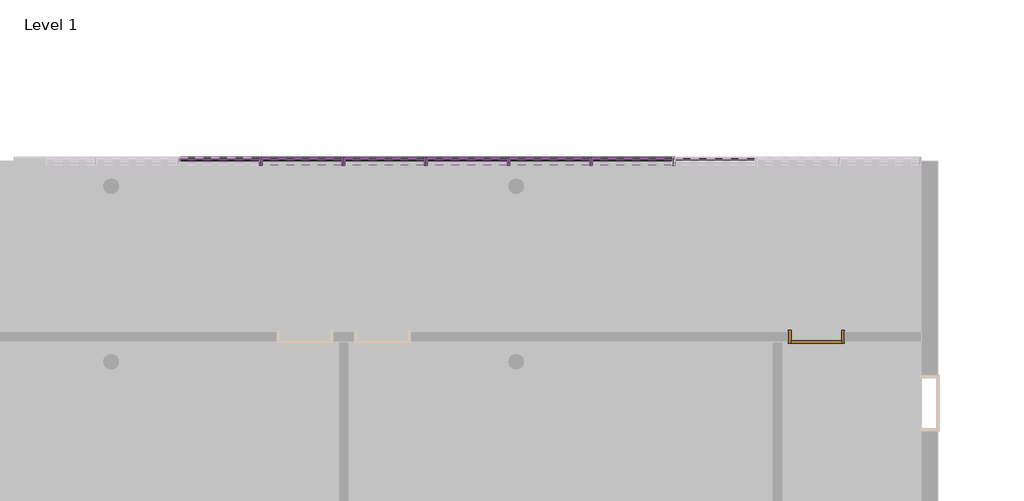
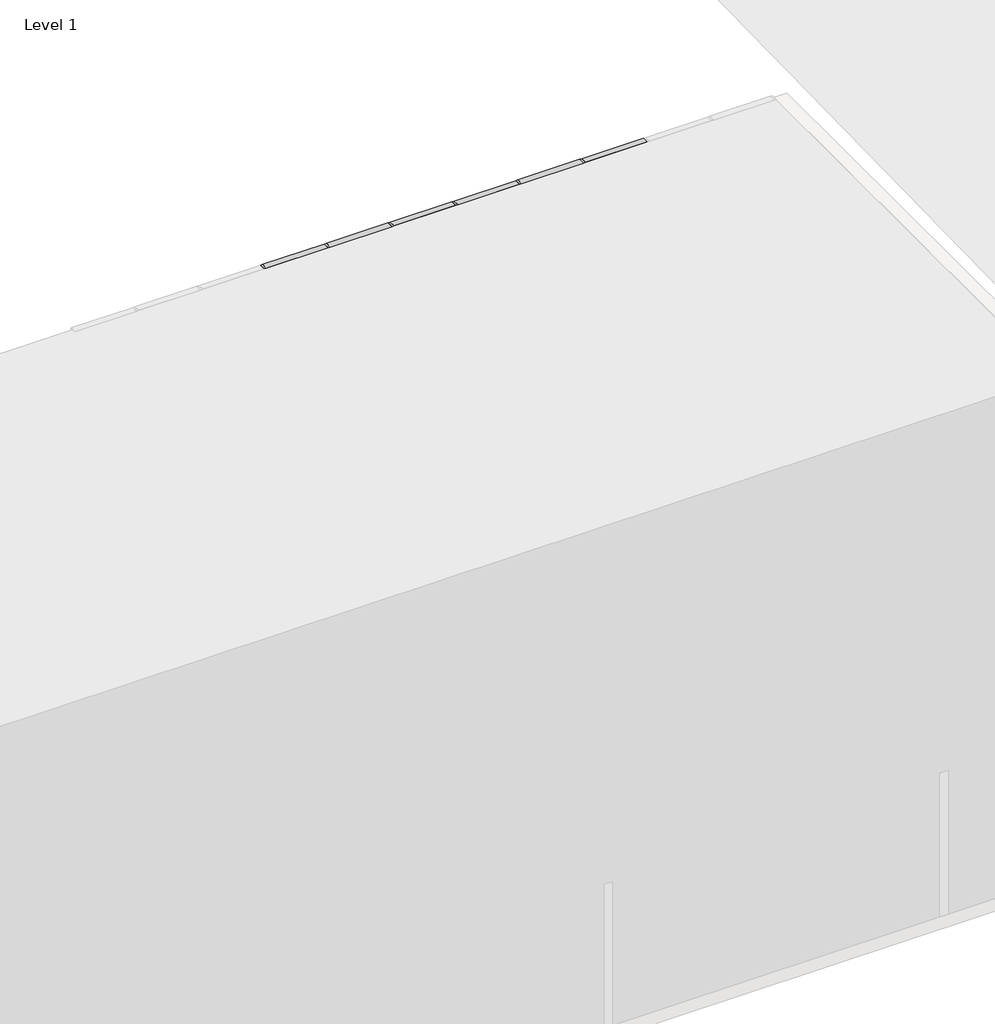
# One storey, part 8 of 27: 87 members, 46 plates, 1 door.
"""IFC4 building model written with IfcOpenShell, lengths in millimetres."""

from ifc_helpers import new_model, si_unit, origin, place, context, project, spatial, transform, mapped, element, save
from components import door_0915mm_x_2134mm_3fa07aa3, rectangular_mullion_50mm_x_150mm_5f185edf, rectangular_mullion_50mm_x_150mm_e13fe9f0, rectangular_mullion_50mm_x_150mm_bbc1c4ea, rectangular_mullion_50mm_x_150mm_36202a7c, rectangular_mullion_50mm_x_150mm_84717ec5, system_panel_glazed_65478968, system_panel_glazed_4c130a31, system_panel_solid_368a6b70, system_panel_solid_ece33ae8

model = new_model("IFC4")

# Units and contexts
model_context = context("Model", 3, world=origin())
ifc_project = project(units=[si_unit("LENGTHUNIT", "METRE", prefix="MILLI")], contexts=[model_context])

# Site, building, storey
site = spatial("IfcSite", under=ifc_project)
building = spatial("IfcBuilding", under=site)
storey = spatial("IfcBuildingStorey", under=building, Name="Level 1", Elevation=0.0)

# Door
placement = place(None, origin())
door_0915mm_x_2134mm_shape = door_0915mm_x_2134mm_3fa07aa3(model_context)
element("IfcDoor", 1, ObjectType="m-doors-hm-f1-a : 0915mm x 2134mm", at=placement, inside=storey, context=model_context, shape_type="MappedRepresentation", body=[
    mapped(door_0915mm_x_2134mm_shape, transform((54804.1173382, -15479.7006057, 0.0), x_axis=(1.0, 0.0, 0.0), y_axis=(0.0, 1.0, 0.0), z_axis=(0.0, 0.0, 1.0))),
])

# Members
rectangular_mullion_50mm_x_150mm_shape = rectangular_mullion_50mm_x_150mm_5f185edf(model_context)
element("IfcMember", 2, ObjectType="Rectangular Mullion : 50mm x 150mm", at=placement, inside=storey, context=model_context, shape_type="MappedRepresentation", body=[
    mapped(rectangular_mullion_50mm_x_150mm_shape, transform((52246.6976774, -12132.3615692, 12400.0), x_axis=(0.0, 0.0, 1.0), y_axis=(0.0, 1.0, 0.0), z_axis=(-1.0, 0.0, 0.0))),
])
element("IfcMember", 3, ObjectType="Rectangular Mullion : 50mm x 150mm", at=placement, inside=storey, context=model_context, shape_type="MappedRepresentation", body=[
    mapped(rectangular_mullion_50mm_x_150mm_shape, transform((50754.2244573, -12132.3615692, 12400.0), x_axis=(0.0, 0.0, 1.0), y_axis=(0.0, 1.0, 0.0), z_axis=(-1.0, 0.0, 0.0))),
])
element("IfcMember", 4, ObjectType="Rectangular Mullion : 50mm x 150mm", at=placement, inside=storey, context=model_context, shape_type="MappedRepresentation", body=[
    mapped(rectangular_mullion_50mm_x_150mm_shape, transform((49261.7512371, -12132.3615692, 12400.0), x_axis=(0.0, 0.0, 1.0), y_axis=(0.0, 1.0, 0.0), z_axis=(-1.0, 0.0, 0.0))),
])
element("IfcMember", 5, ObjectType="Rectangular Mullion : 50mm x 150mm", at=placement, inside=storey, context=model_context, shape_type="MappedRepresentation", body=[
    mapped(rectangular_mullion_50mm_x_150mm_shape, transform((47769.2780169, -12132.3615692, 12400.0), x_axis=(0.0, 0.0, 1.0), y_axis=(0.0, 1.0, 0.0), z_axis=(-1.0, 0.0, 0.0))),
])
element("IfcMember", 6, ObjectType="Rectangular Mullion : 50mm x 150mm", at=placement, inside=storey, context=model_context, shape_type="MappedRepresentation", body=[
    mapped(rectangular_mullion_50mm_x_150mm_shape, transform((46276.8047968, -12132.3615692, 12400.0), x_axis=(0.0, 0.0, 1.0), y_axis=(0.0, 1.0, 0.0), z_axis=(-1.0, 0.0, 0.0))),
])
element("IfcMember", 7, ObjectType="Rectangular Mullion : 50mm x 150mm", at=placement, inside=storey, context=model_context, shape_type="MappedRepresentation", body=[
    mapped(rectangular_mullion_50mm_x_150mm_shape, transform((44784.3315766, -12132.3615692, 12400.0), x_axis=(0.0, 0.0, 1.0), y_axis=(0.0, 1.0, 0.0), z_axis=(-1.0, 0.0, 0.0))),
])
element("IfcMember", 8, ObjectType="Rectangular Mullion : 50mm x 150mm", at=placement, inside=storey, context=model_context, shape_type="MappedRepresentation", body=[
    mapped(rectangular_mullion_50mm_x_150mm_shape, transform((52196.6976774, -12132.3615692, 0.0), x_axis=(0.0, 0.0, -1.0), y_axis=(0.0, 1.0, 0.0), z_axis=(1.0, 0.0, 0.0))),
])
element("IfcMember", 9, ObjectType="Rectangular Mullion : 50mm x 150mm", at=placement, inside=storey, context=model_context, shape_type="MappedRepresentation", body=[
    mapped(rectangular_mullion_50mm_x_150mm_shape, transform((50704.2244573, -12132.3615692, 0.0), x_axis=(0.0, 0.0, -1.0), y_axis=(0.0, 1.0, 0.0), z_axis=(1.0, 0.0, 0.0))),
])
element("IfcMember", 10, ObjectType="Rectangular Mullion : 50mm x 150mm", at=placement, inside=storey, context=model_context, shape_type="MappedRepresentation", body=[
    mapped(rectangular_mullion_50mm_x_150mm_shape, transform((49211.7512371, -12132.3615692, 0.0), x_axis=(0.0, 0.0, -1.0), y_axis=(0.0, 1.0, 0.0), z_axis=(1.0, 0.0, 0.0))),
])
element("IfcMember", 11, ObjectType="Rectangular Mullion : 50mm x 150mm", at=placement, inside=storey, context=model_context, shape_type="MappedRepresentation", body=[
    mapped(rectangular_mullion_50mm_x_150mm_shape, transform((47719.2780169, -12132.3615692, 0.0), x_axis=(0.0, 0.0, -1.0), y_axis=(0.0, 1.0, 0.0), z_axis=(1.0, 0.0, 0.0))),
])
element("IfcMember", 12, ObjectType="Rectangular Mullion : 50mm x 150mm", at=placement, inside=storey, context=model_context, shape_type="MappedRepresentation", body=[
    mapped(rectangular_mullion_50mm_x_150mm_shape, transform((46226.8047968, -12132.3615692, 0.0), x_axis=(0.0, 0.0, -1.0), y_axis=(0.0, 1.0, 0.0), z_axis=(1.0, 0.0, 0.0))),
])
element("IfcMember", 13, ObjectType="Rectangular Mullion : 50mm x 150mm", at=placement, inside=storey, context=model_context, shape_type="MappedRepresentation", body=[
    mapped(rectangular_mullion_50mm_x_150mm_shape, transform((44734.3315766, -12132.3615692, 0.0), x_axis=(0.0, 0.0, -1.0), y_axis=(0.0, 1.0, 0.0), z_axis=(1.0, 0.0, 0.0))),
])
rectangular_mullion_50mm_x_150mm_2_shape = rectangular_mullion_50mm_x_150mm_e13fe9f0(model_context)
element("IfcMember", 14, ObjectType="Rectangular Mullion : 50mm x 150mm", at=placement, inside=storey, context=model_context, shape_type="MappedRepresentation", body=[
    mapped(rectangular_mullion_50mm_x_150mm_2_shape, transform((52246.6976774, -12132.3615692, 3800.0), x_axis=(0.0, 0.0, 1.0), y_axis=(0.0, 1.0, 0.0), z_axis=(-1.0, 0.0, 0.0))),
])
element("IfcMember", 15, ObjectType="Rectangular Mullion : 50mm x 150mm", at=placement, inside=storey, context=model_context, shape_type="MappedRepresentation", body=[
    mapped(rectangular_mullion_50mm_x_150mm_2_shape, transform((50754.2244573, -12132.3615692, 3800.0), x_axis=(0.0, 0.0, 1.0), y_axis=(0.0, 1.0, 0.0), z_axis=(-1.0, 0.0, 0.0))),
])
element("IfcMember", 16, ObjectType="Rectangular Mullion : 50mm x 150mm", at=placement, inside=storey, context=model_context, shape_type="MappedRepresentation", body=[
    mapped(rectangular_mullion_50mm_x_150mm_2_shape, transform((49261.7512371, -12132.3615692, 3800.0), x_axis=(0.0, 0.0, 1.0), y_axis=(0.0, 1.0, 0.0), z_axis=(-1.0, 0.0, 0.0))),
])
element("IfcMember", 17, ObjectType="Rectangular Mullion : 50mm x 150mm", at=placement, inside=storey, context=model_context, shape_type="MappedRepresentation", body=[
    mapped(rectangular_mullion_50mm_x_150mm_2_shape, transform((47769.2780169, -12132.3615692, 3800.0), x_axis=(0.0, 0.0, 1.0), y_axis=(0.0, 1.0, 0.0), z_axis=(-1.0, 0.0, 0.0))),
])
element("IfcMember", 18, ObjectType="Rectangular Mullion : 50mm x 150mm", at=placement, inside=storey, context=model_context, shape_type="MappedRepresentation", body=[
    mapped(rectangular_mullion_50mm_x_150mm_2_shape, transform((46276.8047968, -12132.3615692, 3800.0), x_axis=(0.0, 0.0, 1.0), y_axis=(0.0, 1.0, 0.0), z_axis=(-1.0, 0.0, 0.0))),
])
element("IfcMember", 19, ObjectType="Rectangular Mullion : 50mm x 150mm", at=placement, inside=storey, context=model_context, shape_type="MappedRepresentation", body=[
    mapped(rectangular_mullion_50mm_x_150mm_2_shape, transform((44784.3315766, -12132.3615692, 3800.0), x_axis=(0.0, 0.0, 1.0), y_axis=(0.0, 1.0, 0.0), z_axis=(-1.0, 0.0, 0.0))),
])
element("IfcMember", 20, ObjectType="Rectangular Mullion : 50mm x 150mm", at=placement, inside=storey, context=model_context, shape_type="MappedRepresentation", body=[
    mapped(rectangular_mullion_50mm_x_150mm_2_shape, transform((52246.6976774, -12132.3615692, 7600.0), x_axis=(0.0, 0.0, 1.0), y_axis=(0.0, 1.0, 0.0), z_axis=(-1.0, 0.0, 0.0))),
])
element("IfcMember", 21, ObjectType="Rectangular Mullion : 50mm x 150mm", at=placement, inside=storey, context=model_context, shape_type="MappedRepresentation", body=[
    mapped(rectangular_mullion_50mm_x_150mm_2_shape, transform((50754.2244573, -12132.3615692, 7600.0), x_axis=(0.0, 0.0, 1.0), y_axis=(0.0, 1.0, 0.0), z_axis=(-1.0, 0.0, 0.0))),
])
element("IfcMember", 22, ObjectType="Rectangular Mullion : 50mm x 150mm", at=placement, inside=storey, context=model_context, shape_type="MappedRepresentation", body=[
    mapped(rectangular_mullion_50mm_x_150mm_2_shape, transform((49261.7512371, -12132.3615692, 7600.0), x_axis=(0.0, 0.0, 1.0), y_axis=(0.0, 1.0, 0.0), z_axis=(-1.0, 0.0, 0.0))),
])
element("IfcMember", 23, ObjectType="Rectangular Mullion : 50mm x 150mm", at=placement, inside=storey, context=model_context, shape_type="MappedRepresentation", body=[
    mapped(rectangular_mullion_50mm_x_150mm_2_shape, transform((47769.2780169, -12132.3615692, 7600.0), x_axis=(0.0, 0.0, 1.0), y_axis=(0.0, 1.0, 0.0), z_axis=(-1.0, 0.0, 0.0))),
])
element("IfcMember", 24, ObjectType="Rectangular Mullion : 50mm x 150mm", at=placement, inside=storey, context=model_context, shape_type="MappedRepresentation", body=[
    mapped(rectangular_mullion_50mm_x_150mm_2_shape, transform((46276.8047968, -12132.3615692, 7600.0), x_axis=(0.0, 0.0, 1.0), y_axis=(0.0, 1.0, 0.0), z_axis=(-1.0, 0.0, 0.0))),
])
element("IfcMember", 25, ObjectType="Rectangular Mullion : 50mm x 150mm", at=placement, inside=storey, context=model_context, shape_type="MappedRepresentation", body=[
    mapped(rectangular_mullion_50mm_x_150mm_2_shape, transform((44784.3315766, -12132.3615692, 7600.0), x_axis=(0.0, 0.0, 1.0), y_axis=(0.0, 1.0, 0.0), z_axis=(-1.0, 0.0, 0.0))),
])
element("IfcMember", 26, ObjectType="Rectangular Mullion : 50mm x 150mm", at=placement, inside=storey, context=model_context, shape_type="MappedRepresentation", body=[
    mapped(rectangular_mullion_50mm_x_150mm_2_shape, transform((52246.6976774, -12132.3615692, 11400.0), x_axis=(0.0, 0.0, 1.0), y_axis=(0.0, 1.0, 0.0), z_axis=(-1.0, 0.0, 0.0))),
])
element("IfcMember", 27, ObjectType="Rectangular Mullion : 50mm x 150mm", at=placement, inside=storey, context=model_context, shape_type="MappedRepresentation", body=[
    mapped(rectangular_mullion_50mm_x_150mm_2_shape, transform((50754.2244573, -12132.3615692, 11400.0), x_axis=(0.0, 0.0, 1.0), y_axis=(0.0, 1.0, 0.0), z_axis=(-1.0, 0.0, 0.0))),
])
element("IfcMember", 28, ObjectType="Rectangular Mullion : 50mm x 150mm", at=placement, inside=storey, context=model_context, shape_type="MappedRepresentation", body=[
    mapped(rectangular_mullion_50mm_x_150mm_2_shape, transform((49261.7512371, -12132.3615692, 11400.0), x_axis=(0.0, 0.0, 1.0), y_axis=(0.0, 1.0, 0.0), z_axis=(-1.0, 0.0, 0.0))),
])
element("IfcMember", 29, ObjectType="Rectangular Mullion : 50mm x 150mm", at=placement, inside=storey, context=model_context, shape_type="MappedRepresentation", body=[
    mapped(rectangular_mullion_50mm_x_150mm_2_shape, transform((47769.2780169, -12132.3615692, 11400.0), x_axis=(0.0, 0.0, 1.0), y_axis=(0.0, 1.0, 0.0), z_axis=(-1.0, 0.0, 0.0))),
])
element("IfcMember", 30, ObjectType="Rectangular Mullion : 50mm x 150mm", at=placement, inside=storey, context=model_context, shape_type="MappedRepresentation", body=[
    mapped(rectangular_mullion_50mm_x_150mm_2_shape, transform((46276.8047968, -12132.3615692, 11400.0), x_axis=(0.0, 0.0, 1.0), y_axis=(0.0, 1.0, 0.0), z_axis=(-1.0, 0.0, 0.0))),
])
element("IfcMember", 31, ObjectType="Rectangular Mullion : 50mm x 150mm", at=placement, inside=storey, context=model_context, shape_type="MappedRepresentation", body=[
    mapped(rectangular_mullion_50mm_x_150mm_2_shape, transform((44784.3315766, -12132.3615692, 11400.0), x_axis=(0.0, 0.0, 1.0), y_axis=(0.0, 1.0, 0.0), z_axis=(-1.0, 0.0, 0.0))),
])
element("IfcMember", 32, ObjectType="Rectangular Mullion : 50mm x 150mm", at=placement, inside=storey, context=model_context, shape_type="MappedRepresentation", body=[
    mapped(rectangular_mullion_50mm_x_150mm_2_shape, transform((52246.6976774, -12132.3615692, 2440.0), x_axis=(0.0, 0.0, 1.0), y_axis=(0.0, 1.0, 0.0), z_axis=(-1.0, 0.0, 0.0))),
])
element("IfcMember", 33, ObjectType="Rectangular Mullion : 50mm x 150mm", at=placement, inside=storey, context=model_context, shape_type="MappedRepresentation", body=[
    mapped(rectangular_mullion_50mm_x_150mm_2_shape, transform((50754.2244573, -12132.3615692, 2440.0), x_axis=(0.0, 0.0, 1.0), y_axis=(0.0, 1.0, 0.0), z_axis=(-1.0, 0.0, 0.0))),
])
element("IfcMember", 34, ObjectType="Rectangular Mullion : 50mm x 150mm", at=placement, inside=storey, context=model_context, shape_type="MappedRepresentation", body=[
    mapped(rectangular_mullion_50mm_x_150mm_2_shape, transform((49261.7512371, -12132.3615692, 2440.0), x_axis=(0.0, 0.0, 1.0), y_axis=(0.0, 1.0, 0.0), z_axis=(-1.0, 0.0, 0.0))),
])
element("IfcMember", 35, ObjectType="Rectangular Mullion : 50mm x 150mm", at=placement, inside=storey, context=model_context, shape_type="MappedRepresentation", body=[
    mapped(rectangular_mullion_50mm_x_150mm_2_shape, transform((47769.2780169, -12132.3615692, 2440.0), x_axis=(0.0, 0.0, 1.0), y_axis=(0.0, 1.0, 0.0), z_axis=(-1.0, 0.0, 0.0))),
])
element("IfcMember", 36, ObjectType="Rectangular Mullion : 50mm x 150mm", at=placement, inside=storey, context=model_context, shape_type="MappedRepresentation", body=[
    mapped(rectangular_mullion_50mm_x_150mm_2_shape, transform((46276.8047968, -12132.3615692, 2440.0), x_axis=(0.0, 0.0, 1.0), y_axis=(0.0, 1.0, 0.0), z_axis=(-1.0, 0.0, 0.0))),
])
element("IfcMember", 37, ObjectType="Rectangular Mullion : 50mm x 150mm", at=placement, inside=storey, context=model_context, shape_type="MappedRepresentation", body=[
    mapped(rectangular_mullion_50mm_x_150mm_2_shape, transform((44784.3315766, -12132.3615692, 2440.0), x_axis=(0.0, 0.0, 1.0), y_axis=(0.0, 1.0, 0.0), z_axis=(-1.0, 0.0, 0.0))),
])
element("IfcMember", 38, ObjectType="Rectangular Mullion : 50mm x 150mm", at=placement, inside=storey, context=model_context, shape_type="MappedRepresentation", body=[
    mapped(rectangular_mullion_50mm_x_150mm_2_shape, transform((52246.6976774, -12132.3615692, 6240.0), x_axis=(0.0, 0.0, 1.0), y_axis=(0.0, 1.0, 0.0), z_axis=(-1.0, 0.0, 0.0))),
])
element("IfcMember", 39, ObjectType="Rectangular Mullion : 50mm x 150mm", at=placement, inside=storey, context=model_context, shape_type="MappedRepresentation", body=[
    mapped(rectangular_mullion_50mm_x_150mm_2_shape, transform((50754.2244573, -12132.3615692, 6240.0), x_axis=(0.0, 0.0, 1.0), y_axis=(0.0, 1.0, 0.0), z_axis=(-1.0, 0.0, 0.0))),
])
element("IfcMember", 40, ObjectType="Rectangular Mullion : 50mm x 150mm", at=placement, inside=storey, context=model_context, shape_type="MappedRepresentation", body=[
    mapped(rectangular_mullion_50mm_x_150mm_2_shape, transform((49261.7512371, -12132.3615692, 6240.0), x_axis=(0.0, 0.0, 1.0), y_axis=(0.0, 1.0, 0.0), z_axis=(-1.0, 0.0, 0.0))),
])
element("IfcMember", 41, ObjectType="Rectangular Mullion : 50mm x 150mm", at=placement, inside=storey, context=model_context, shape_type="MappedRepresentation", body=[
    mapped(rectangular_mullion_50mm_x_150mm_2_shape, transform((47769.2780169, -12132.3615692, 6240.0), x_axis=(0.0, 0.0, 1.0), y_axis=(0.0, 1.0, 0.0), z_axis=(-1.0, 0.0, 0.0))),
])
element("IfcMember", 42, ObjectType="Rectangular Mullion : 50mm x 150mm", at=placement, inside=storey, context=model_context, shape_type="MappedRepresentation", body=[
    mapped(rectangular_mullion_50mm_x_150mm_2_shape, transform((46276.8047968, -12132.3615692, 6240.0), x_axis=(0.0, 0.0, 1.0), y_axis=(0.0, 1.0, 0.0), z_axis=(-1.0, 0.0, 0.0))),
])
element("IfcMember", 43, ObjectType="Rectangular Mullion : 50mm x 150mm", at=placement, inside=storey, context=model_context, shape_type="MappedRepresentation", body=[
    mapped(rectangular_mullion_50mm_x_150mm_2_shape, transform((44784.3315766, -12132.3615692, 6240.0), x_axis=(0.0, 0.0, 1.0), y_axis=(0.0, 1.0, 0.0), z_axis=(-1.0, 0.0, 0.0))),
])
element("IfcMember", 44, ObjectType="Rectangular Mullion : 50mm x 150mm", at=placement, inside=storey, context=model_context, shape_type="MappedRepresentation", body=[
    mapped(rectangular_mullion_50mm_x_150mm_2_shape, transform((50754.2244573, -12132.3615692, 10040.0), x_axis=(0.0, 0.0, 1.0), y_axis=(0.0, 1.0, 0.0), z_axis=(-1.0, 0.0, 0.0))),
])
element("IfcMember", 45, ObjectType="Rectangular Mullion : 50mm x 150mm", at=placement, inside=storey, context=model_context, shape_type="MappedRepresentation", body=[
    mapped(rectangular_mullion_50mm_x_150mm_2_shape, transform((49261.7512371, -12132.3615692, 10040.0), x_axis=(0.0, 0.0, 1.0), y_axis=(0.0, 1.0, 0.0), z_axis=(-1.0, 0.0, 0.0))),
])
element("IfcMember", 46, ObjectType="Rectangular Mullion : 50mm x 150mm", at=placement, inside=storey, context=model_context, shape_type="MappedRepresentation", body=[
    mapped(rectangular_mullion_50mm_x_150mm_2_shape, transform((47769.2780169, -12132.3615692, 10040.0), x_axis=(0.0, 0.0, 1.0), y_axis=(0.0, 1.0, 0.0), z_axis=(-1.0, 0.0, 0.0))),
])
element("IfcMember", 47, ObjectType="Rectangular Mullion : 50mm x 150mm", at=placement, inside=storey, context=model_context, shape_type="MappedRepresentation", body=[
    mapped(rectangular_mullion_50mm_x_150mm_2_shape, transform((46276.8047968, -12132.3615692, 10040.0), x_axis=(0.0, 0.0, 1.0), y_axis=(0.0, 1.0, 0.0), z_axis=(-1.0, 0.0, 0.0))),
])
element("IfcMember", 48, ObjectType="Rectangular Mullion : 50mm x 150mm", at=placement, inside=storey, context=model_context, shape_type="MappedRepresentation", body=[
    mapped(rectangular_mullion_50mm_x_150mm_2_shape, transform((44784.3315766, -12132.3615692, 10040.0), x_axis=(0.0, 0.0, 1.0), y_axis=(0.0, 1.0, 0.0), z_axis=(-1.0, 0.0, 0.0))),
])
rectangular_mullion_50mm_x_150mm_3_shape = rectangular_mullion_50mm_x_150mm_bbc1c4ea(model_context)
element("IfcMember", 49, ObjectType="Rectangular Mullion : 50mm x 150mm", at=placement, inside=storey, context=model_context, shape_type="MappedRepresentation", body=[
    mapped(rectangular_mullion_50mm_x_150mm_3_shape, transform((52221.6976774, -12132.3615692, 11400.0), x_axis=(-1.0, 0.0, 0.0), y_axis=(0.0, 1.0, 0.0), z_axis=(0.0, 0.0, -1.0))),
])
element("IfcMember", 50, ObjectType="Rectangular Mullion : 50mm x 150mm", at=placement, inside=storey, context=model_context, shape_type="MappedRepresentation", body=[
    mapped(rectangular_mullion_50mm_x_150mm_3_shape, transform((50729.2244573, -12132.3615692, 11400.0), x_axis=(-1.0, 0.0, 0.0), y_axis=(0.0, 1.0, 0.0), z_axis=(0.0, 0.0, -1.0))),
])
element("IfcMember", 51, ObjectType="Rectangular Mullion : 50mm x 150mm", at=placement, inside=storey, context=model_context, shape_type="MappedRepresentation", body=[
    mapped(rectangular_mullion_50mm_x_150mm_3_shape, transform((49236.7512371, -12132.3615692, 11400.0), x_axis=(-1.0, 0.0, 0.0), y_axis=(0.0, 1.0, 0.0), z_axis=(0.0, 0.0, -1.0))),
])
element("IfcMember", 52, ObjectType="Rectangular Mullion : 50mm x 150mm", at=placement, inside=storey, context=model_context, shape_type="MappedRepresentation", body=[
    mapped(rectangular_mullion_50mm_x_150mm_3_shape, transform((47744.2780169, -12132.3615692, 11400.0), x_axis=(-1.0, 0.0, 0.0), y_axis=(0.0, 1.0, 0.0), z_axis=(0.0, 0.0, -1.0))),
])
element("IfcMember", 53, ObjectType="Rectangular Mullion : 50mm x 150mm", at=placement, inside=storey, context=model_context, shape_type="MappedRepresentation", body=[
    mapped(rectangular_mullion_50mm_x_150mm_3_shape, transform((46251.8047968, -12132.3615692, 11400.0), x_axis=(-1.0, 0.0, 0.0), y_axis=(0.0, 1.0, 0.0), z_axis=(0.0, 0.0, -1.0))),
])
element("IfcMember", 54, ObjectType="Rectangular Mullion : 50mm x 150mm", at=placement, inside=storey, context=model_context, shape_type="MappedRepresentation", body=[
    mapped(rectangular_mullion_50mm_x_150mm_3_shape, transform((44759.3315766, -12132.3615692, 11400.0), x_axis=(-1.0, 0.0, 0.0), y_axis=(0.0, 1.0, 0.0), z_axis=(0.0, 0.0, -1.0))),
])
rectangular_mullion_50mm_x_150mm_4_shape = rectangular_mullion_50mm_x_150mm_36202a7c(model_context)
element("IfcMember", 55, ObjectType="Rectangular Mullion : 50mm x 150mm", at=placement, inside=storey, context=model_context, shape_type="MappedRepresentation", body=[
    mapped(rectangular_mullion_50mm_x_150mm_4_shape, transform((52221.6976774, -12132.3615692, 0.0), x_axis=(-1.0, 0.0, 0.0), y_axis=(0.0, 1.0, 0.0), z_axis=(0.0, 0.0, -1.0))),
])
element("IfcMember", 56, ObjectType="Rectangular Mullion : 50mm x 150mm", at=placement, inside=storey, context=model_context, shape_type="MappedRepresentation", body=[
    mapped(rectangular_mullion_50mm_x_150mm_4_shape, transform((50729.2244573, -12132.3615692, 0.0), x_axis=(-1.0, 0.0, 0.0), y_axis=(0.0, 1.0, 0.0), z_axis=(0.0, 0.0, -1.0))),
])
element("IfcMember", 57, ObjectType="Rectangular Mullion : 50mm x 150mm", at=placement, inside=storey, context=model_context, shape_type="MappedRepresentation", body=[
    mapped(rectangular_mullion_50mm_x_150mm_4_shape, transform((49236.7512371, -12132.3615692, 0.0), x_axis=(-1.0, 0.0, 0.0), y_axis=(0.0, 1.0, 0.0), z_axis=(0.0, 0.0, -1.0))),
])
element("IfcMember", 58, ObjectType="Rectangular Mullion : 50mm x 150mm", at=placement, inside=storey, context=model_context, shape_type="MappedRepresentation", body=[
    mapped(rectangular_mullion_50mm_x_150mm_4_shape, transform((47744.2780169, -12132.3615692, 0.0), x_axis=(-1.0, 0.0, 0.0), y_axis=(0.0, 1.0, 0.0), z_axis=(0.0, 0.0, -1.0))),
])
element("IfcMember", 59, ObjectType="Rectangular Mullion : 50mm x 150mm", at=placement, inside=storey, context=model_context, shape_type="MappedRepresentation", body=[
    mapped(rectangular_mullion_50mm_x_150mm_4_shape, transform((46251.8047968, -12132.3615692, 0.0), x_axis=(-1.0, 0.0, 0.0), y_axis=(0.0, 1.0, 0.0), z_axis=(0.0, 0.0, -1.0))),
])
element("IfcMember", 60, ObjectType="Rectangular Mullion : 50mm x 150mm", at=placement, inside=storey, context=model_context, shape_type="MappedRepresentation", body=[
    mapped(rectangular_mullion_50mm_x_150mm_4_shape, transform((44759.3315766, -12132.3615692, 0.0), x_axis=(-1.0, 0.0, 0.0), y_axis=(0.0, 1.0, 0.0), z_axis=(0.0, 0.0, -1.0))),
])
rectangular_mullion_50mm_x_150mm_5_shape = rectangular_mullion_50mm_x_150mm_84717ec5(model_context)
element("IfcMember", 61, ObjectType="Rectangular Mullion : 50mm x 150mm", at=placement, inside=storey, context=model_context, shape_type="MappedRepresentation", body=[
    mapped(rectangular_mullion_50mm_x_150mm_5_shape, transform((52221.6976774, -12132.3615692, 2440.0), x_axis=(-1.0, 0.0, 0.0), y_axis=(0.0, 1.0, 0.0), z_axis=(0.0, 0.0, -1.0))),
])
element("IfcMember", 62, ObjectType="Rectangular Mullion : 50mm x 150mm", at=placement, inside=storey, context=model_context, shape_type="MappedRepresentation", body=[
    mapped(rectangular_mullion_50mm_x_150mm_5_shape, transform((50729.2244573, -12132.3615692, 2440.0), x_axis=(-1.0, 0.0, 0.0), y_axis=(0.0, 1.0, 0.0), z_axis=(0.0, 0.0, -1.0))),
])
element("IfcMember", 63, ObjectType="Rectangular Mullion : 50mm x 150mm", at=placement, inside=storey, context=model_context, shape_type="MappedRepresentation", body=[
    mapped(rectangular_mullion_50mm_x_150mm_5_shape, transform((49236.7512371, -12132.3615692, 2440.0), x_axis=(-1.0, 0.0, 0.0), y_axis=(0.0, 1.0, 0.0), z_axis=(0.0, 0.0, -1.0))),
])
element("IfcMember", 64, ObjectType="Rectangular Mullion : 50mm x 150mm", at=placement, inside=storey, context=model_context, shape_type="MappedRepresentation", body=[
    mapped(rectangular_mullion_50mm_x_150mm_5_shape, transform((47744.2780169, -12132.3615692, 2440.0), x_axis=(-1.0, 0.0, 0.0), y_axis=(0.0, 1.0, 0.0), z_axis=(0.0, 0.0, -1.0))),
])
element("IfcMember", 65, ObjectType="Rectangular Mullion : 50mm x 150mm", at=placement, inside=storey, context=model_context, shape_type="MappedRepresentation", body=[
    mapped(rectangular_mullion_50mm_x_150mm_5_shape, transform((46251.8047968, -12132.3615692, 2440.0), x_axis=(-1.0, 0.0, 0.0), y_axis=(0.0, 1.0, 0.0), z_axis=(0.0, 0.0, -1.0))),
])
element("IfcMember", 66, ObjectType="Rectangular Mullion : 50mm x 150mm", at=placement, inside=storey, context=model_context, shape_type="MappedRepresentation", body=[
    mapped(rectangular_mullion_50mm_x_150mm_5_shape, transform((44759.3315766, -12132.3615692, 2440.0), x_axis=(-1.0, 0.0, 0.0), y_axis=(0.0, 1.0, 0.0), z_axis=(0.0, 0.0, -1.0))),
])
element("IfcMember", 67, ObjectType="Rectangular Mullion : 50mm x 150mm", at=placement, inside=storey, context=model_context, shape_type="MappedRepresentation", body=[
    mapped(rectangular_mullion_50mm_x_150mm_5_shape, transform((50729.2244573, -12132.3615692, 6240.0), x_axis=(-1.0, 0.0, 0.0), y_axis=(0.0, 1.0, 0.0), z_axis=(0.0, 0.0, -1.0))),
])
element("IfcMember", 68, ObjectType="Rectangular Mullion : 50mm x 150mm", at=placement, inside=storey, context=model_context, shape_type="MappedRepresentation", body=[
    mapped(rectangular_mullion_50mm_x_150mm_5_shape, transform((49236.7512371, -12132.3615692, 6240.0), x_axis=(-1.0, 0.0, 0.0), y_axis=(0.0, 1.0, 0.0), z_axis=(0.0, 0.0, -1.0))),
])
element("IfcMember", 69, ObjectType="Rectangular Mullion : 50mm x 150mm", at=placement, inside=storey, context=model_context, shape_type="MappedRepresentation", body=[
    mapped(rectangular_mullion_50mm_x_150mm_5_shape, transform((47744.2780169, -12132.3615692, 6240.0), x_axis=(-1.0, 0.0, 0.0), y_axis=(0.0, 1.0, 0.0), z_axis=(0.0, 0.0, -1.0))),
])
element("IfcMember", 70, ObjectType="Rectangular Mullion : 50mm x 150mm", at=placement, inside=storey, context=model_context, shape_type="MappedRepresentation", body=[
    mapped(rectangular_mullion_50mm_x_150mm_5_shape, transform((46251.8047968, -12132.3615692, 6240.0), x_axis=(-1.0, 0.0, 0.0), y_axis=(0.0, 1.0, 0.0), z_axis=(0.0, 0.0, -1.0))),
])
element("IfcMember", 71, ObjectType="Rectangular Mullion : 50mm x 150mm", at=placement, inside=storey, context=model_context, shape_type="MappedRepresentation", body=[
    mapped(rectangular_mullion_50mm_x_150mm_5_shape, transform((44759.3315766, -12132.3615692, 6240.0), x_axis=(-1.0, 0.0, 0.0), y_axis=(0.0, 1.0, 0.0), z_axis=(0.0, 0.0, -1.0))),
])
element("IfcMember", 72, ObjectType="Rectangular Mullion : 50mm x 150mm", at=placement, inside=storey, context=model_context, shape_type="MappedRepresentation", body=[
    mapped(rectangular_mullion_50mm_x_150mm_5_shape, transform((50729.2244573, -12132.3615692, 10040.0), x_axis=(-1.0, 0.0, 0.0), y_axis=(0.0, 1.0, 0.0), z_axis=(0.0, 0.0, -1.0))),
])
element("IfcMember", 73, ObjectType="Rectangular Mullion : 50mm x 150mm", at=placement, inside=storey, context=model_context, shape_type="MappedRepresentation", body=[
    mapped(rectangular_mullion_50mm_x_150mm_5_shape, transform((49236.7512371, -12132.3615692, 10040.0), x_axis=(-1.0, 0.0, 0.0), y_axis=(0.0, 1.0, 0.0), z_axis=(0.0, 0.0, -1.0))),
])
element("IfcMember", 74, ObjectType="Rectangular Mullion : 50mm x 150mm", at=placement, inside=storey, context=model_context, shape_type="MappedRepresentation", body=[
    mapped(rectangular_mullion_50mm_x_150mm_5_shape, transform((47744.2780169, -12132.3615692, 10040.0), x_axis=(-1.0, 0.0, 0.0), y_axis=(0.0, 1.0, 0.0), z_axis=(0.0, 0.0, -1.0))),
])
element("IfcMember", 75, ObjectType="Rectangular Mullion : 50mm x 150mm", at=placement, inside=storey, context=model_context, shape_type="MappedRepresentation", body=[
    mapped(rectangular_mullion_50mm_x_150mm_5_shape, transform((46251.8047968, -12132.3615692, 10040.0), x_axis=(-1.0, 0.0, 0.0), y_axis=(0.0, 1.0, 0.0), z_axis=(0.0, 0.0, -1.0))),
])
element("IfcMember", 76, ObjectType="Rectangular Mullion : 50mm x 150mm", at=placement, inside=storey, context=model_context, shape_type="MappedRepresentation", body=[
    mapped(rectangular_mullion_50mm_x_150mm_5_shape, transform((44759.3315766, -12132.3615692, 10040.0), x_axis=(-1.0, 0.0, 0.0), y_axis=(0.0, 1.0, 0.0), z_axis=(0.0, 0.0, -1.0))),
])
element("IfcMember", 77, ObjectType="Rectangular Mullion : 50mm x 150mm", at=placement, inside=storey, context=model_context, shape_type="MappedRepresentation", body=[
    mapped(rectangular_mullion_50mm_x_150mm_4_shape, transform((52221.6976774, -12132.3615692, 3800.0), x_axis=(-1.0, 0.0, 0.0), y_axis=(0.0, 1.0, 0.0), z_axis=(0.0, 0.0, -1.0))),
])
element("IfcMember", 78, ObjectType="Rectangular Mullion : 50mm x 150mm", at=placement, inside=storey, context=model_context, shape_type="MappedRepresentation", body=[
    mapped(rectangular_mullion_50mm_x_150mm_4_shape, transform((50729.2244573, -12132.3615692, 3800.0), x_axis=(-1.0, 0.0, 0.0), y_axis=(0.0, 1.0, 0.0), z_axis=(0.0, 0.0, -1.0))),
])
element("IfcMember", 79, ObjectType="Rectangular Mullion : 50mm x 150mm", at=placement, inside=storey, context=model_context, shape_type="MappedRepresentation", body=[
    mapped(rectangular_mullion_50mm_x_150mm_4_shape, transform((49236.7512371, -12132.3615692, 3800.0), x_axis=(-1.0, 0.0, 0.0), y_axis=(0.0, 1.0, 0.0), z_axis=(0.0, 0.0, -1.0))),
])
element("IfcMember", 80, ObjectType="Rectangular Mullion : 50mm x 150mm", at=placement, inside=storey, context=model_context, shape_type="MappedRepresentation", body=[
    mapped(rectangular_mullion_50mm_x_150mm_4_shape, transform((47744.2780169, -12132.3615692, 3800.0), x_axis=(-1.0, 0.0, 0.0), y_axis=(0.0, 1.0, 0.0), z_axis=(0.0, 0.0, -1.0))),
])
element("IfcMember", 81, ObjectType="Rectangular Mullion : 50mm x 150mm", at=placement, inside=storey, context=model_context, shape_type="MappedRepresentation", body=[
    mapped(rectangular_mullion_50mm_x_150mm_4_shape, transform((46251.8047968, -12132.3615692, 3800.0), x_axis=(-1.0, 0.0, 0.0), y_axis=(0.0, 1.0, 0.0), z_axis=(0.0, 0.0, -1.0))),
])
element("IfcMember", 82, ObjectType="Rectangular Mullion : 50mm x 150mm", at=placement, inside=storey, context=model_context, shape_type="MappedRepresentation", body=[
    mapped(rectangular_mullion_50mm_x_150mm_4_shape, transform((44759.3315766, -12132.3615692, 3800.0), x_axis=(-1.0, 0.0, 0.0), y_axis=(0.0, 1.0, 0.0), z_axis=(0.0, 0.0, -1.0))),
])
element("IfcMember", 83, ObjectType="Rectangular Mullion : 50mm x 150mm", at=placement, inside=storey, context=model_context, shape_type="MappedRepresentation", body=[
    mapped(rectangular_mullion_50mm_x_150mm_4_shape, transform((52221.6976774, -12132.3615692, 7600.0), x_axis=(-1.0, 0.0, 0.0), y_axis=(0.0, 1.0, 0.0), z_axis=(0.0, 0.0, -1.0))),
])
element("IfcMember", 84, ObjectType="Rectangular Mullion : 50mm x 150mm", at=placement, inside=storey, context=model_context, shape_type="MappedRepresentation", body=[
    mapped(rectangular_mullion_50mm_x_150mm_4_shape, transform((50729.2244573, -12132.3615692, 7600.0), x_axis=(-1.0, 0.0, 0.0), y_axis=(0.0, 1.0, 0.0), z_axis=(0.0, 0.0, -1.0))),
])
element("IfcMember", 85, ObjectType="Rectangular Mullion : 50mm x 150mm", at=placement, inside=storey, context=model_context, shape_type="MappedRepresentation", body=[
    mapped(rectangular_mullion_50mm_x_150mm_4_shape, transform((49236.7512371, -12132.3615692, 7600.0), x_axis=(-1.0, 0.0, 0.0), y_axis=(0.0, 1.0, 0.0), z_axis=(0.0, 0.0, -1.0))),
])
element("IfcMember", 86, ObjectType="Rectangular Mullion : 50mm x 150mm", at=placement, inside=storey, context=model_context, shape_type="MappedRepresentation", body=[
    mapped(rectangular_mullion_50mm_x_150mm_4_shape, transform((47744.2780169, -12132.3615692, 7600.0), x_axis=(-1.0, 0.0, 0.0), y_axis=(0.0, 1.0, 0.0), z_axis=(0.0, 0.0, -1.0))),
])
element("IfcMember", 87, ObjectType="Rectangular Mullion : 50mm x 150mm", at=placement, inside=storey, context=model_context, shape_type="MappedRepresentation", body=[
    mapped(rectangular_mullion_50mm_x_150mm_4_shape, transform((46251.8047968, -12132.3615692, 7600.0), x_axis=(-1.0, 0.0, 0.0), y_axis=(0.0, 1.0, 0.0), z_axis=(0.0, 0.0, -1.0))),
])
element("IfcMember", 88, ObjectType="Rectangular Mullion : 50mm x 150mm", at=placement, inside=storey, context=model_context, shape_type="MappedRepresentation", body=[
    mapped(rectangular_mullion_50mm_x_150mm_4_shape, transform((44759.3315766, -12132.3615692, 7600.0), x_axis=(-1.0, 0.0, 0.0), y_axis=(0.0, 1.0, 0.0), z_axis=(0.0, 0.0, -1.0))),
])

# Plates
system_panel_glazed_shape = system_panel_glazed_65478968(model_context)
element("IfcPlate", 89, ObjectType="System Panel : Glazed", at=placement, inside=storey, context=model_context, shape_type="MappedRepresentation", body=[
    mapped(system_panel_glazed_shape, transform((52967.9342875, -12132.3615692, 50.0), x_axis=(-1.0, 0.0, 0.0), y_axis=(0.0, -1.0, 0.0), z_axis=(0.0, 0.0, 1.0))),
])
element("IfcPlate", 90, ObjectType="System Panel : Glazed", at=placement, inside=storey, context=model_context, shape_type="MappedRepresentation", body=[
    mapped(system_panel_glazed_shape, transform((51475.4610673, -12132.3615692, 50.0), x_axis=(-1.0, 0.0, 0.0), y_axis=(0.0, -1.0, 0.0), z_axis=(0.0, 0.0, 1.0))),
])
element("IfcPlate", 91, ObjectType="System Panel : Glazed", at=placement, inside=storey, context=model_context, shape_type="MappedRepresentation", body=[
    mapped(system_panel_glazed_shape, transform((49982.9878472, -12132.3615692, 50.0), x_axis=(-1.0, 0.0, 0.0), y_axis=(0.0, -1.0, 0.0), z_axis=(0.0, 0.0, 1.0))),
])
element("IfcPlate", 92, ObjectType="System Panel : Glazed", at=placement, inside=storey, context=model_context, shape_type="MappedRepresentation", body=[
    mapped(system_panel_glazed_shape, transform((48490.514627, -12132.3615692, 50.0), x_axis=(-1.0, 0.0, 0.0), y_axis=(0.0, -1.0, 0.0), z_axis=(0.0, 0.0, 1.0))),
])
element("IfcPlate", 93, ObjectType="System Panel : Glazed", at=placement, inside=storey, context=model_context, shape_type="MappedRepresentation", body=[
    mapped(system_panel_glazed_shape, transform((46998.0414069, -12132.3615692, 50.0), x_axis=(-1.0, 0.0, 0.0), y_axis=(0.0, -1.0, 0.0), z_axis=(0.0, 0.0, 1.0))),
])
element("IfcPlate", 94, ObjectType="System Panel : Glazed", at=placement, inside=storey, context=model_context, shape_type="MappedRepresentation", body=[
    mapped(system_panel_glazed_shape, transform((45505.5681867, -12132.3615692, 50.0), x_axis=(-1.0, 0.0, 0.0), y_axis=(0.0, -1.0, 0.0), z_axis=(0.0, 0.0, 1.0))),
])
system_panel_glazed_2_shape = system_panel_glazed_4c130a31(model_context)
element("IfcPlate", 95, ObjectType="System Panel : Glazed", at=placement, inside=storey, context=model_context, shape_type="MappedRepresentation", body=[
    mapped(system_panel_glazed_2_shape, transform((52967.9342875, -12132.3615692, 3825.0), x_axis=(-1.0, 0.0, 0.0), y_axis=(0.0, -1.0, 0.0), z_axis=(0.0, 0.0, 1.0))),
])
element("IfcPlate", 96, ObjectType="System Panel : Glazed", at=placement, inside=storey, context=model_context, shape_type="MappedRepresentation", body=[
    mapped(system_panel_glazed_2_shape, transform((51475.4610673, -12132.3615692, 3825.0), x_axis=(-1.0, 0.0, 0.0), y_axis=(0.0, -1.0, 0.0), z_axis=(0.0, 0.0, 1.0))),
])
element("IfcPlate", 97, ObjectType="System Panel : Glazed", at=placement, inside=storey, context=model_context, shape_type="MappedRepresentation", body=[
    mapped(system_panel_glazed_2_shape, transform((49982.9878472, -12132.3615692, 3825.0), x_axis=(-1.0, 0.0, 0.0), y_axis=(0.0, -1.0, 0.0), z_axis=(0.0, 0.0, 1.0))),
])
element("IfcPlate", 98, ObjectType="System Panel : Glazed", at=placement, inside=storey, context=model_context, shape_type="MappedRepresentation", body=[
    mapped(system_panel_glazed_2_shape, transform((48490.514627, -12132.3615692, 3825.0), x_axis=(-1.0, 0.0, 0.0), y_axis=(0.0, -1.0, 0.0), z_axis=(0.0, 0.0, 1.0))),
])
element("IfcPlate", 99, ObjectType="System Panel : Glazed", at=placement, inside=storey, context=model_context, shape_type="MappedRepresentation", body=[
    mapped(system_panel_glazed_2_shape, transform((46998.0414069, -12132.3615692, 3825.0), x_axis=(-1.0, 0.0, 0.0), y_axis=(0.0, -1.0, 0.0), z_axis=(0.0, 0.0, 1.0))),
])
element("IfcPlate", 100, ObjectType="System Panel : Glazed", at=placement, inside=storey, context=model_context, shape_type="MappedRepresentation", body=[
    mapped(system_panel_glazed_2_shape, transform((45505.5681867, -12132.3615692, 3825.0), x_axis=(-1.0, 0.0, 0.0), y_axis=(0.0, -1.0, 0.0), z_axis=(0.0, 0.0, 1.0))),
])
element("IfcPlate", 101, ObjectType="System Panel : Glazed", at=placement, inside=storey, context=model_context, shape_type="MappedRepresentation", body=[
    mapped(system_panel_glazed_2_shape, transform((52967.9342875, -12132.3615692, 7625.0), x_axis=(-1.0, 0.0, 0.0), y_axis=(0.0, -1.0, 0.0), z_axis=(0.0, 0.0, 1.0))),
])
element("IfcPlate", 102, ObjectType="System Panel : Glazed", at=placement, inside=storey, context=model_context, shape_type="MappedRepresentation", body=[
    mapped(system_panel_glazed_2_shape, transform((51475.4610673, -12132.3615692, 7625.0), x_axis=(-1.0, 0.0, 0.0), y_axis=(0.0, -1.0, 0.0), z_axis=(0.0, 0.0, 1.0))),
])
element("IfcPlate", 103, ObjectType="System Panel : Glazed", at=placement, inside=storey, context=model_context, shape_type="MappedRepresentation", body=[
    mapped(system_panel_glazed_2_shape, transform((49982.9878472, -12132.3615692, 7625.0), x_axis=(-1.0, 0.0, 0.0), y_axis=(0.0, -1.0, 0.0), z_axis=(0.0, 0.0, 1.0))),
])
element("IfcPlate", 104, ObjectType="System Panel : Glazed", at=placement, inside=storey, context=model_context, shape_type="MappedRepresentation", body=[
    mapped(system_panel_glazed_2_shape, transform((48490.514627, -12132.3615692, 7625.0), x_axis=(-1.0, 0.0, 0.0), y_axis=(0.0, -1.0, 0.0), z_axis=(0.0, 0.0, 1.0))),
])
element("IfcPlate", 105, ObjectType="System Panel : Glazed", at=placement, inside=storey, context=model_context, shape_type="MappedRepresentation", body=[
    mapped(system_panel_glazed_2_shape, transform((46998.0414069, -12132.3615692, 7625.0), x_axis=(-1.0, 0.0, 0.0), y_axis=(0.0, -1.0, 0.0), z_axis=(0.0, 0.0, 1.0))),
])
element("IfcPlate", 106, ObjectType="System Panel : Glazed", at=placement, inside=storey, context=model_context, shape_type="MappedRepresentation", body=[
    mapped(system_panel_glazed_2_shape, transform((45505.5681867, -12132.3615692, 7625.0), x_axis=(-1.0, 0.0, 0.0), y_axis=(0.0, -1.0, 0.0), z_axis=(0.0, 0.0, 1.0))),
])
element("IfcPlate", 107, ObjectType="System Panel : Glazed", at=placement, inside=storey, context=model_context, shape_type="MappedRepresentation", body=[
    mapped(system_panel_glazed_2_shape, transform((44013.0949665, -12132.3615692, 7625.0), x_axis=(-1.0, 0.0, 0.0), y_axis=(0.0, -1.0, 0.0), z_axis=(0.0, 0.0, 1.0))),
])
system_panel_solid_shape = system_panel_solid_368a6b70(model_context)
element("IfcPlate", 108, ObjectType="System Panel : Solid", at=placement, inside=storey, context=model_context, shape_type="MappedRepresentation", body=[
    mapped(system_panel_solid_shape, transform((52967.9342875, -12132.3615692, 11425.0), x_axis=(-1.0, 0.0, 0.0), y_axis=(0.0, -1.0, 0.0), z_axis=(0.0, 0.0, 1.0))),
])
element("IfcPlate", 109, ObjectType="System Panel : Solid", at=placement, inside=storey, context=model_context, shape_type="MappedRepresentation", body=[
    mapped(system_panel_solid_shape, transform((51475.4610673, -12132.3615692, 11425.0), x_axis=(-1.0, 0.0, 0.0), y_axis=(0.0, -1.0, 0.0), z_axis=(0.0, 0.0, 1.0))),
])
element("IfcPlate", 110, ObjectType="System Panel : Solid", at=placement, inside=storey, context=model_context, shape_type="MappedRepresentation", body=[
    mapped(system_panel_solid_shape, transform((49982.9878472, -12132.3615692, 11425.0), x_axis=(-1.0, 0.0, 0.0), y_axis=(0.0, -1.0, 0.0), z_axis=(0.0, 0.0, 1.0))),
])
element("IfcPlate", 111, ObjectType="System Panel : Solid", at=placement, inside=storey, context=model_context, shape_type="MappedRepresentation", body=[
    mapped(system_panel_solid_shape, transform((48490.514627, -12132.3615692, 11425.0), x_axis=(-1.0, 0.0, 0.0), y_axis=(0.0, -1.0, 0.0), z_axis=(0.0, 0.0, 1.0))),
])
element("IfcPlate", 112, ObjectType="System Panel : Solid", at=placement, inside=storey, context=model_context, shape_type="MappedRepresentation", body=[
    mapped(system_panel_solid_shape, transform((46998.0414069, -12132.3615692, 11425.0), x_axis=(-1.0, 0.0, 0.0), y_axis=(0.0, -1.0, 0.0), z_axis=(0.0, 0.0, 1.0))),
])
element("IfcPlate", 113, ObjectType="System Panel : Solid", at=placement, inside=storey, context=model_context, shape_type="MappedRepresentation", body=[
    mapped(system_panel_solid_shape, transform((45505.5681867, -12132.3615692, 11425.0), x_axis=(-1.0, 0.0, 0.0), y_axis=(0.0, -1.0, 0.0), z_axis=(0.0, 0.0, 1.0))),
])
element("IfcPlate", 114, ObjectType="System Panel : Solid", at=placement, inside=storey, context=model_context, shape_type="MappedRepresentation", body=[
    mapped(system_panel_solid_shape, transform((44013.0949665, -12132.3615692, 11425.0), x_axis=(-1.0, 0.0, 0.0), y_axis=(0.0, -1.0, 0.0), z_axis=(0.0, 0.0, 1.0))),
])
system_panel_solid_2_shape = system_panel_solid_ece33ae8(model_context)
element("IfcPlate", 115, ObjectType="System Panel : Solid", at=placement, inside=storey, context=model_context, shape_type="MappedRepresentation", body=[
    mapped(system_panel_solid_2_shape, transform((52967.9342875, -12132.3615692, 2465.0), x_axis=(-1.0, 0.0, 0.0), y_axis=(0.0, -1.0, 0.0), z_axis=(0.0, 0.0, 1.0))),
])
element("IfcPlate", 116, ObjectType="System Panel : Solid", at=placement, inside=storey, context=model_context, shape_type="MappedRepresentation", body=[
    mapped(system_panel_solid_2_shape, transform((51475.4610673, -12132.3615692, 2465.0), x_axis=(-1.0, 0.0, 0.0), y_axis=(0.0, -1.0, 0.0), z_axis=(0.0, 0.0, 1.0))),
])
element("IfcPlate", 117, ObjectType="System Panel : Solid", at=placement, inside=storey, context=model_context, shape_type="MappedRepresentation", body=[
    mapped(system_panel_solid_2_shape, transform((49982.9878472, -12132.3615692, 2465.0), x_axis=(-1.0, 0.0, 0.0), y_axis=(0.0, -1.0, 0.0), z_axis=(0.0, 0.0, 1.0))),
])
element("IfcPlate", 118, ObjectType="System Panel : Solid", at=placement, inside=storey, context=model_context, shape_type="MappedRepresentation", body=[
    mapped(system_panel_solid_2_shape, transform((48490.514627, -12132.3615692, 2465.0), x_axis=(-1.0, 0.0, 0.0), y_axis=(0.0, -1.0, 0.0), z_axis=(0.0, 0.0, 1.0))),
])
element("IfcPlate", 119, ObjectType="System Panel : Solid", at=placement, inside=storey, context=model_context, shape_type="MappedRepresentation", body=[
    mapped(system_panel_solid_2_shape, transform((46998.0414069, -12132.3615692, 2465.0), x_axis=(-1.0, 0.0, 0.0), y_axis=(0.0, -1.0, 0.0), z_axis=(0.0, 0.0, 1.0))),
])
element("IfcPlate", 120, ObjectType="System Panel : Solid", at=placement, inside=storey, context=model_context, shape_type="MappedRepresentation", body=[
    mapped(system_panel_solid_2_shape, transform((45505.5681867, -12132.3615692, 2465.0), x_axis=(-1.0, 0.0, 0.0), y_axis=(0.0, -1.0, 0.0), z_axis=(0.0, 0.0, 1.0))),
])
element("IfcPlate", 121, ObjectType="System Panel : Solid", at=placement, inside=storey, context=model_context, shape_type="MappedRepresentation", body=[
    mapped(system_panel_solid_2_shape, transform((44013.0949665, -12132.3615692, 2465.0), x_axis=(-1.0, 0.0, 0.0), y_axis=(0.0, -1.0, 0.0), z_axis=(0.0, 0.0, 1.0))),
])
element("IfcPlate", 122, ObjectType="System Panel : Solid", at=placement, inside=storey, context=model_context, shape_type="MappedRepresentation", body=[
    mapped(system_panel_solid_2_shape, transform((52967.9342875, -12132.3615692, 6265.0), x_axis=(-1.0, 0.0, 0.0), y_axis=(0.0, -1.0, 0.0), z_axis=(0.0, 0.0, 1.0))),
])
element("IfcPlate", 123, ObjectType="System Panel : Solid", at=placement, inside=storey, context=model_context, shape_type="MappedRepresentation", body=[
    mapped(system_panel_solid_2_shape, transform((51475.4610673, -12132.3615692, 6265.0), x_axis=(-1.0, 0.0, 0.0), y_axis=(0.0, -1.0, 0.0), z_axis=(0.0, 0.0, 1.0))),
])
element("IfcPlate", 124, ObjectType="System Panel : Solid", at=placement, inside=storey, context=model_context, shape_type="MappedRepresentation", body=[
    mapped(system_panel_solid_2_shape, transform((49982.9878472, -12132.3615692, 6265.0), x_axis=(-1.0, 0.0, 0.0), y_axis=(0.0, -1.0, 0.0), z_axis=(0.0, 0.0, 1.0))),
])
element("IfcPlate", 125, ObjectType="System Panel : Solid", at=placement, inside=storey, context=model_context, shape_type="MappedRepresentation", body=[
    mapped(system_panel_solid_2_shape, transform((48490.514627, -12132.3615692, 6265.0), x_axis=(-1.0, 0.0, 0.0), y_axis=(0.0, -1.0, 0.0), z_axis=(0.0, 0.0, 1.0))),
])
element("IfcPlate", 126, ObjectType="System Panel : Solid", at=placement, inside=storey, context=model_context, shape_type="MappedRepresentation", body=[
    mapped(system_panel_solid_2_shape, transform((46998.0414069, -12132.3615692, 6265.0), x_axis=(-1.0, 0.0, 0.0), y_axis=(0.0, -1.0, 0.0), z_axis=(0.0, 0.0, 1.0))),
])
element("IfcPlate", 127, ObjectType="System Panel : Solid", at=placement, inside=storey, context=model_context, shape_type="MappedRepresentation", body=[
    mapped(system_panel_solid_2_shape, transform((45505.5681867, -12132.3615692, 6265.0), x_axis=(-1.0, 0.0, 0.0), y_axis=(0.0, -1.0, 0.0), z_axis=(0.0, 0.0, 1.0))),
])
element("IfcPlate", 128, ObjectType="System Panel : Solid", at=placement, inside=storey, context=model_context, shape_type="MappedRepresentation", body=[
    mapped(system_panel_solid_2_shape, transform((44013.0949665, -12132.3615692, 6265.0), x_axis=(-1.0, 0.0, 0.0), y_axis=(0.0, -1.0, 0.0), z_axis=(0.0, 0.0, 1.0))),
])
element("IfcPlate", 129, ObjectType="System Panel : Solid", at=placement, inside=storey, context=model_context, shape_type="MappedRepresentation", body=[
    mapped(system_panel_solid_2_shape, transform((51475.4610673, -12132.3615692, 10065.0), x_axis=(-1.0, 0.0, 0.0), y_axis=(0.0, -1.0, 0.0), z_axis=(0.0, 0.0, 1.0))),
])
element("IfcPlate", 130, ObjectType="System Panel : Solid", at=placement, inside=storey, context=model_context, shape_type="MappedRepresentation", body=[
    mapped(system_panel_solid_2_shape, transform((49982.9878472, -12132.3615692, 10065.0), x_axis=(-1.0, 0.0, 0.0), y_axis=(0.0, -1.0, 0.0), z_axis=(0.0, 0.0, 1.0))),
])
element("IfcPlate", 131, ObjectType="System Panel : Solid", at=placement, inside=storey, context=model_context, shape_type="MappedRepresentation", body=[
    mapped(system_panel_solid_2_shape, transform((48490.514627, -12132.3615692, 10065.0), x_axis=(-1.0, 0.0, 0.0), y_axis=(0.0, -1.0, 0.0), z_axis=(0.0, 0.0, 1.0))),
])
element("IfcPlate", 132, ObjectType="System Panel : Solid", at=placement, inside=storey, context=model_context, shape_type="MappedRepresentation", body=[
    mapped(system_panel_solid_2_shape, transform((46998.0414069, -12132.3615692, 10065.0), x_axis=(-1.0, 0.0, 0.0), y_axis=(0.0, -1.0, 0.0), z_axis=(0.0, 0.0, 1.0))),
])
element("IfcPlate", 133, ObjectType="System Panel : Solid", at=placement, inside=storey, context=model_context, shape_type="MappedRepresentation", body=[
    mapped(system_panel_solid_2_shape, transform((45505.5681867, -12132.3615692, 10065.0), x_axis=(-1.0, 0.0, 0.0), y_axis=(0.0, -1.0, 0.0), z_axis=(0.0, 0.0, 1.0))),
])
element("IfcPlate", 134, ObjectType="System Panel : Solid", at=placement, inside=storey, context=model_context, shape_type="MappedRepresentation", body=[
    mapped(system_panel_solid_2_shape, transform((44013.0949665, -12132.3615692, 10065.0), x_axis=(-1.0, 0.0, 0.0), y_axis=(0.0, -1.0, 0.0), z_axis=(0.0, 0.0, 1.0))),
])

save(model, "model.ifc")
